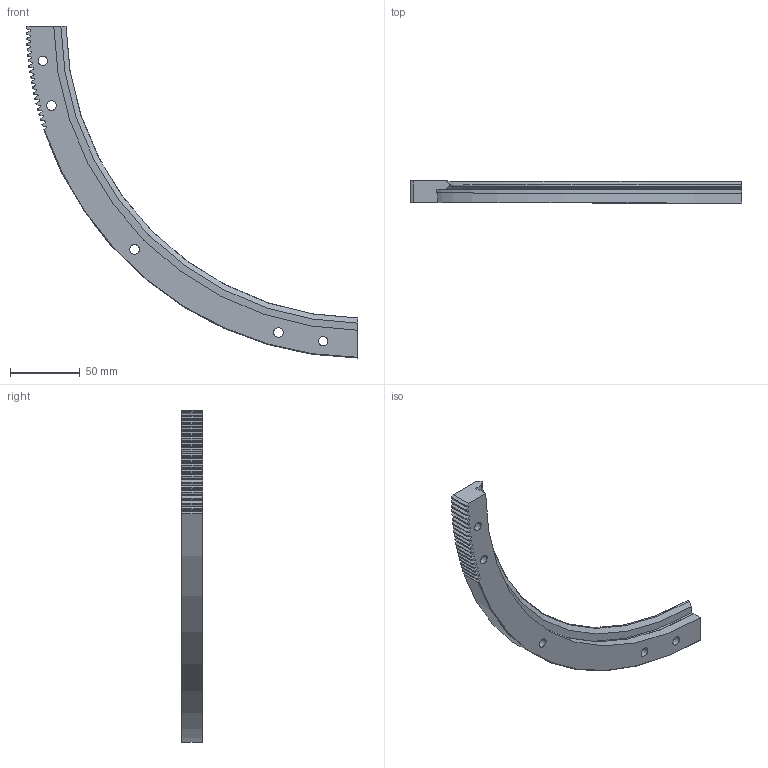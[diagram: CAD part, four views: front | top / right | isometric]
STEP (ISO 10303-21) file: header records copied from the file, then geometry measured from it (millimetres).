
FILE_DESCRIPTION( ( 'STEP AP203' ), '1' );
FILE_NAME( 'p:/temp/worker_23/temp/exporttempdir_4924_247_VUYYt/format_0/TRIM 482 R90 P .stp', '2021-09-17T07:50:01', ( 'License CC BY-ND 4.0' ), ( 'CADENAS' ), ' ', 'PARTsolutions', ' ' );
FILE_SCHEMA( ( 'CONFIG_CONTROL_DESIGN' ) );
Length unit declared in the file: millimetre
Products named in the file (1): _TRIM 482 R90 P 
Bounding box: 238.73 x 15.5 x 238.74 mm (x, y, z)
Volume: 118736.3 mm3; surface area: 33626.5 mm2
Topology: 1 solids, 1 shells, 144 faces, 411 edges, 274 vertices
Faces by surface type: cylinder 51, plane 50, cone 42, torus 1
Full cylindrical faces by diameter (mm): 6.8 x5, 11 x5
Entity records: 4853 total; most frequent: CARTESIAN_POINT 1090, ORIENTED_EDGE 802, DIRECTION 751, EDGE_CURVE 401, AXIS2_PLACEMENT_3D 291, VERTEX_POINT 274, EDGE_LOOP 169, LINE 169
